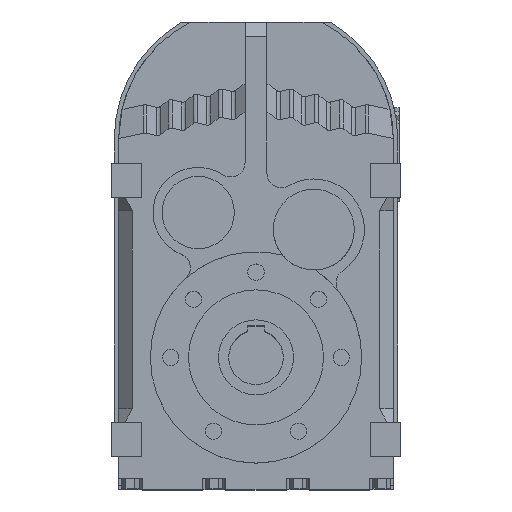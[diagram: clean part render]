
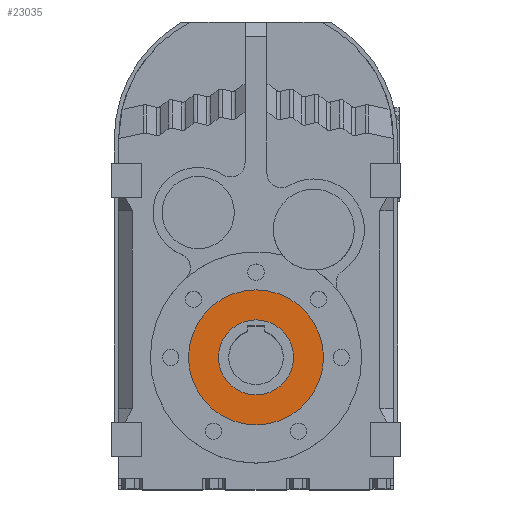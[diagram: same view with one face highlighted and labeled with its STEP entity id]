
A CAD part, top view. The second image highlights one B-rep face of the part: STEP entity #23035.
In plain terms, the highlighted planar face has unit normal (0, 0, 1).
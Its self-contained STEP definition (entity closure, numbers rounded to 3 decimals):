
#21130 = CYLINDRICAL_SURFACE('',#21131,49.5);
#21131 = AXIS2_PLACEMENT_3D('',#21132,#21133,#21134);
#21132 = CARTESIAN_POINT('',(0.,-159.5,110.123));
#21133 = DIRECTION('',(0.,0.,1.));
#21134 = DIRECTION('',(1.,0.,0.));
#21156 = CYLINDRICAL_SURFACE('',#21157,49.5);
#21157 = AXIS2_PLACEMENT_3D('',#21158,#21159,#21160);
#21158 = CARTESIAN_POINT('',(0.,-159.5,110.123));
#21159 = DIRECTION('',(0.,0.,1.));
#21160 = DIRECTION('',(1.,0.,0.));
#21883 = CYLINDRICAL_SURFACE('',#21884,27.5);
#21884 = AXIS2_PLACEMENT_3D('',#21885,#21886,#21887);
#21885 = CARTESIAN_POINT('',(0.,-159.5,110.123));
#21886 = DIRECTION('',(0.,0.,1.));
#21887 = DIRECTION('',(1.,0.,0.));
#21913 = CYLINDRICAL_SURFACE('',#21914,27.5);
#21914 = AXIS2_PLACEMENT_3D('',#21915,#21916,#21917);
#21915 = CARTESIAN_POINT('',(0.,-159.5,110.123));
#21916 = DIRECTION('',(0.,0.,1.));
#21917 = DIRECTION('',(1.,0.,0.));
#22614 = VERTEX_POINT('',#22615);
#22615 = CARTESIAN_POINT('',(-49.5,-159.5,156.));
#22636 = VERTEX_POINT('',#22637);
#22637 = CARTESIAN_POINT('',(49.5,-159.5,156.));
#22656 = EDGE_CURVE('',#22636,#22614,#22657,.T.);
#22657 = SURFACE_CURVE('',#22658,(#22663,#22669),.PCURVE_S1.);
#22658 = CIRCLE('',#22659,49.5);
#22659 = AXIS2_PLACEMENT_3D('',#22660,#22661,#22662);
#22660 = CARTESIAN_POINT('',(0.,-159.5,156.));
#22661 = DIRECTION('',(0.,0.,1.));
#22662 = DIRECTION('',(1.,0.,0.));
#22663 = PCURVE('',#21130,#22664);
#22664 = DEFINITIONAL_REPRESENTATION('',(#22665),#22668);
#22665 = B_SPLINE_CURVE_WITH_KNOTS('',1,(#22666,#22667),.UNSPECIFIED.,
  .F.,.F.,(2,2),(0.,3.142),.PIECEWISE_BEZIER_KNOTS.);
#22666 = CARTESIAN_POINT('',(0.,45.877));
#22667 = CARTESIAN_POINT('',(3.142,45.877));
#22668 = ( GEOMETRIC_REPRESENTATION_CONTEXT(2) 
PARAMETRIC_REPRESENTATION_CONTEXT() REPRESENTATION_CONTEXT('2D SPACE',''
  ) );
#22669 = PCURVE('',#22670,#22675);
#22670 = PLANE('',#22671);
#22671 = AXIS2_PLACEMENT_3D('',#22672,#22673,#22674);
#22672 = CARTESIAN_POINT('',(0.,-110.,156.));
#22673 = DIRECTION('',(0.,0.,1.));
#22674 = DIRECTION('',(1.,0.,0.));
#22675 = DEFINITIONAL_REPRESENTATION('',(#22676),#22680);
#22676 = CIRCLE('',#22677,49.5);
#22677 = AXIS2_PLACEMENT_2D('',#22678,#22679);
#22678 = CARTESIAN_POINT('',(0.,-49.5));
#22679 = DIRECTION('',(1.,0.));
#22680 = ( GEOMETRIC_REPRESENTATION_CONTEXT(2) 
PARAMETRIC_REPRESENTATION_CONTEXT() REPRESENTATION_CONTEXT('2D SPACE',''
  ) );
#22685 = EDGE_CURVE('',#22614,#22636,#22686,.T.);
#22686 = SURFACE_CURVE('',#22687,(#22692,#22698),.PCURVE_S1.);
#22687 = CIRCLE('',#22688,49.5);
#22688 = AXIS2_PLACEMENT_3D('',#22689,#22690,#22691);
#22689 = CARTESIAN_POINT('',(0.,-159.5,156.));
#22690 = DIRECTION('',(0.,0.,1.));
#22691 = DIRECTION('',(1.,0.,0.));
#22692 = PCURVE('',#21156,#22693);
#22693 = DEFINITIONAL_REPRESENTATION('',(#22694),#22697);
#22694 = B_SPLINE_CURVE_WITH_KNOTS('',1,(#22695,#22696),.UNSPECIFIED.,
  .F.,.F.,(2,2),(3.142,6.283),.PIECEWISE_BEZIER_KNOTS.);
#22695 = CARTESIAN_POINT('',(3.142,45.877));
#22696 = CARTESIAN_POINT('',(6.283,45.877));
#22697 = ( GEOMETRIC_REPRESENTATION_CONTEXT(2) 
PARAMETRIC_REPRESENTATION_CONTEXT() REPRESENTATION_CONTEXT('2D SPACE',''
  ) );
#22698 = PCURVE('',#22670,#22699);
#22699 = DEFINITIONAL_REPRESENTATION('',(#22700),#22704);
#22700 = CIRCLE('',#22701,49.5);
#22701 = AXIS2_PLACEMENT_2D('',#22702,#22703);
#22702 = CARTESIAN_POINT('',(0.,-49.5));
#22703 = DIRECTION('',(1.,0.));
#22704 = ( GEOMETRIC_REPRESENTATION_CONTEXT(2) 
PARAMETRIC_REPRESENTATION_CONTEXT() REPRESENTATION_CONTEXT('2D SPACE',''
  ) );
#22912 = VERTEX_POINT('',#22913);
#22913 = CARTESIAN_POINT('',(27.5,-159.5,156.));
#22932 = EDGE_CURVE('',#22933,#22912,#22935,.T.);
#22933 = VERTEX_POINT('',#22934);
#22934 = CARTESIAN_POINT('',(-27.5,-159.5,156.));
#22935 = SURFACE_CURVE('',#22936,(#22941,#22947),.PCURVE_S1.);
#22936 = CIRCLE('',#22937,27.5);
#22937 = AXIS2_PLACEMENT_3D('',#22938,#22939,#22940);
#22938 = CARTESIAN_POINT('',(0.,-159.5,156.));
#22939 = DIRECTION('',(0.,0.,1.));
#22940 = DIRECTION('',(1.,0.,0.));
#22941 = PCURVE('',#21913,#22942);
#22942 = DEFINITIONAL_REPRESENTATION('',(#22943),#22946);
#22943 = B_SPLINE_CURVE_WITH_KNOTS('',1,(#22944,#22945),.UNSPECIFIED.,
  .F.,.F.,(2,2),(3.142,6.283),.PIECEWISE_BEZIER_KNOTS.);
#22944 = CARTESIAN_POINT('',(3.142,45.877));
#22945 = CARTESIAN_POINT('',(6.283,45.877));
#22946 = ( GEOMETRIC_REPRESENTATION_CONTEXT(2) 
PARAMETRIC_REPRESENTATION_CONTEXT() REPRESENTATION_CONTEXT('2D SPACE',''
  ) );
#22947 = PCURVE('',#22670,#22948);
#22948 = DEFINITIONAL_REPRESENTATION('',(#22949),#22953);
#22949 = CIRCLE('',#22950,27.5);
#22950 = AXIS2_PLACEMENT_2D('',#22951,#22952);
#22951 = CARTESIAN_POINT('',(0.,-49.5));
#22952 = DIRECTION('',(1.,0.));
#22953 = ( GEOMETRIC_REPRESENTATION_CONTEXT(2) 
PARAMETRIC_REPRESENTATION_CONTEXT() REPRESENTATION_CONTEXT('2D SPACE',''
  ) );
#22978 = EDGE_CURVE('',#22912,#22933,#22979,.T.);
#22979 = SURFACE_CURVE('',#22980,(#22985,#22991),.PCURVE_S1.);
#22980 = CIRCLE('',#22981,27.5);
#22981 = AXIS2_PLACEMENT_3D('',#22982,#22983,#22984);
#22982 = CARTESIAN_POINT('',(0.,-159.5,156.));
#22983 = DIRECTION('',(0.,0.,1.));
#22984 = DIRECTION('',(1.,0.,0.));
#22985 = PCURVE('',#21883,#22986);
#22986 = DEFINITIONAL_REPRESENTATION('',(#22987),#22990);
#22987 = B_SPLINE_CURVE_WITH_KNOTS('',1,(#22988,#22989),.UNSPECIFIED.,
  .F.,.F.,(2,2),(0.,3.142),.PIECEWISE_BEZIER_KNOTS.);
#22988 = CARTESIAN_POINT('',(0.,45.877));
#22989 = CARTESIAN_POINT('',(3.142,45.877));
#22990 = ( GEOMETRIC_REPRESENTATION_CONTEXT(2) 
PARAMETRIC_REPRESENTATION_CONTEXT() REPRESENTATION_CONTEXT('2D SPACE',''
  ) );
#22991 = PCURVE('',#22670,#22992);
#22992 = DEFINITIONAL_REPRESENTATION('',(#22993),#22997);
#22993 = CIRCLE('',#22994,27.5);
#22994 = AXIS2_PLACEMENT_2D('',#22995,#22996);
#22995 = CARTESIAN_POINT('',(0.,-49.5));
#22996 = DIRECTION('',(1.,0.));
#22997 = ( GEOMETRIC_REPRESENTATION_CONTEXT(2) 
PARAMETRIC_REPRESENTATION_CONTEXT() REPRESENTATION_CONTEXT('2D SPACE',''
  ) );
#23035 = ADVANCED_FACE('',(#23036,#23040),#22670,.T.);
#23036 = FACE_BOUND('',#23037,.T.);
#23037 = EDGE_LOOP('',(#23038,#23039));
#23038 = ORIENTED_EDGE('',*,*,#22656,.T.);
#23039 = ORIENTED_EDGE('',*,*,#22685,.T.);
#23040 = FACE_BOUND('',#23041,.T.);
#23041 = EDGE_LOOP('',(#23042,#23043));
#23042 = ORIENTED_EDGE('',*,*,#22978,.F.);
#23043 = ORIENTED_EDGE('',*,*,#22932,.F.);
